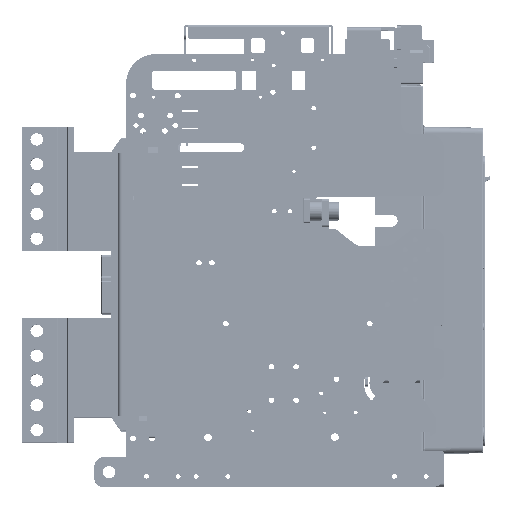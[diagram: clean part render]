
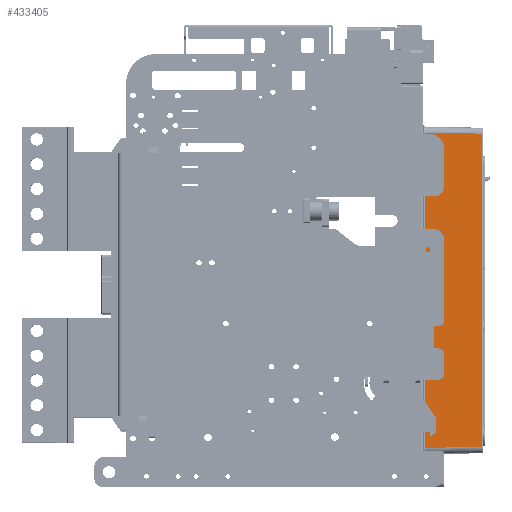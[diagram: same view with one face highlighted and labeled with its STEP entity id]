
A CAD part, top view. The second image highlights one B-rep face of the part: STEP entity #433405.
In plain terms, the highlighted planar face has unit normal (0.018, 0, 1) as drawn and (-1, 0, 0.017) by its records, which use the part's own axes.
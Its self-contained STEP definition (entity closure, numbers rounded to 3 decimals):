
#414785=DIRECTION('',(0.,-1.,0.));
#414786=VECTOR('',#414785,315.942);
#414787=CARTESIAN_POINT('',(-133.97,144.321,
108.017));
#414788=LINE('',#414787,#414786);
#414789=DIRECTION('',(0.017,0.017,1.));
#414790=VECTOR('',#414789,57.07);
#414791=CARTESIAN_POINT('',(-134.966,-172.617,
50.965));
#414792=LINE('',#414791,#414790);
#414793=DIRECTION('',(0.,1.,0.));
#414794=VECTOR('',#414793,317.934);
#414795=CARTESIAN_POINT('',(-134.966,-172.617,
50.965));
#414796=LINE('',#414795,#414794);
#414797=DIRECTION('',(-0.017,0.017,-1.));
#414798=VECTOR('',#414797,57.07);
#414799=CARTESIAN_POINT('',(-133.97,144.321,
108.017));
#414800=LINE('',#414799,#414798);
#429389=CARTESIAN_POINT('',(-133.97,144.321,
108.017));
#432380=CARTESIAN_POINT('',(-134.966,-172.617,
50.965));
#432381=CARTESIAN_POINT('',(-134.966,145.317,
50.965));
#432382=VERTEX_POINT('',#432380);
#432383=VERTEX_POINT('',#432381);
#432421=VERTEX_POINT('',#429389);
#432424=CARTESIAN_POINT('',(-133.97,-171.621,
108.017));
#432425=VERTEX_POINT('',#432424);
#433391=CARTESIAN_POINT('',(-135.,151.35,49.));
#433392=DIRECTION('',(-1.,0.,0.017));
#433393=DIRECTION('',(0.,-1.,0.));
#433394=AXIS2_PLACEMENT_3D('',#433391,#433392,#433393);
#433395=PLANE('',#433394);
#433397=ORIENTED_EDGE('',*,*,#433396,.T.);
#433399=ORIENTED_EDGE('',*,*,#433398,.F.);
#433400=ORIENTED_EDGE('',*,*,#433381,.T.);
#433402=ORIENTED_EDGE('',*,*,#433401,.F.);
#433403=EDGE_LOOP('',(#433397,#433399,#433400,#433402));
#433404=FACE_OUTER_BOUND('',#433403,.F.);
#433405=ADVANCED_FACE('',(#433404),#433395,.T.);
#433381=EDGE_CURVE('',#432382,#432383,#414796,.T.);
#433396=EDGE_CURVE('',#432421,#432425,#414788,.T.);
#433398=EDGE_CURVE('',#432382,#432425,#414792,.T.);
#433401=EDGE_CURVE('',#432421,#432383,#414800,.T.);
